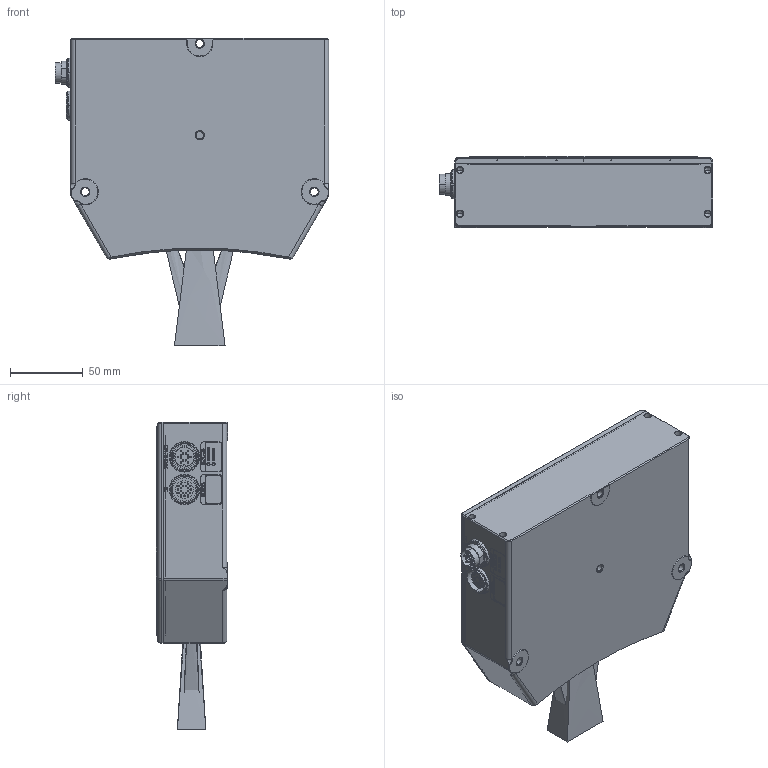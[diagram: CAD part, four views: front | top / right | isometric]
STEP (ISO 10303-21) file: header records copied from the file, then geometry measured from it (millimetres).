
FILE_DESCRIPTION (( 'STEP AP203' ), '1' );
FILE_NAME ('25023.02.01_CAD_Gocator-3504_313504A-LED-B-01-S-R1.02.step', '2019-06-06T23:38:41', ( '' ), ( '' ), 'SwSTEP 2.0', 'SolidWorks 2018', '' );
FILE_SCHEMA (( 'CONFIG_CONTROL_DESIGN' ));
Length unit declared in the file: inch
Products named in the file (1): 25023.02.01_CAD_Gocator-3504_313504A-LED-B-01-S-R1.02
Bounding box: 188.2 x 49 x 211.5 mm (x, y, z)
Volume: 1254558.5 mm3; surface area: 111306.9 mm2
Topology: 5 solids, 5 shells, 1668 faces, 4640 edges, 3105 vertices
Faces by surface type: cylinder 687, plane 457, cone 322, bspline 163, sphere 30, torus 9
Entity records: 67100 total; most frequent: CARTESIAN_POINT 25499, ORIENTED_EDGE 9180, DIRECTION 8034, EDGE_CURVE 4590, VERTEX_POINT 3091, AXIS2_PLACEMENT_3D 2999, VECTOR 2036, LINE 2036
